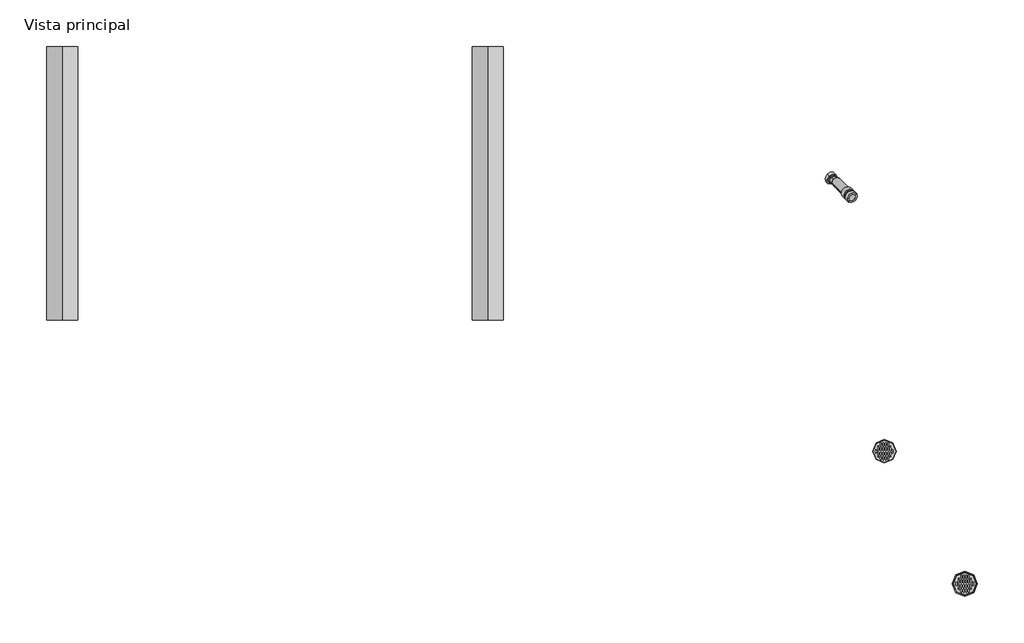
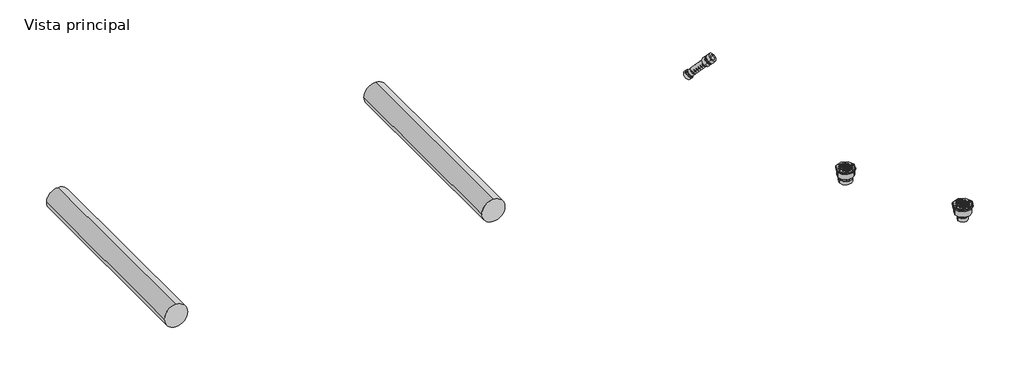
# One storey, incomplete: 3 pipe fittings, 2 pipe segments, 1 valve.
"""IFC4 building model written with IfcOpenShell, lengths in millimetres."""

from ifc_helpers import new_model, si_unit, point, frame, frame_2d, origin, place, context, project, spatial, circle_curve, trimmed, segment, composite_curve, outline, extrude, transform, mapped, element, save
from components import pipe_fitting_ac765421, pipe_fitting_10ac5c91, pipe_fitting_6519f7ac, pipe_fitting_52427b94, var_de22d4bc, var_55d9fc44

model = new_model("IFC4")

# Units and contexts
model_context = context("Model", 3, world=origin())
ifc_project = project(units=[si_unit("LENGTHUNIT", "METRE", prefix="MILLI")], contexts=[model_context])

# Site, building, storey
site = spatial("IfcSite", under=ifc_project)
building = spatial("IfcBuilding", under=site)
storey = spatial("IfcBuildingStorey", under=building, Name="Vista principal", Elevation=0.0)

# Pipe fittings
placement = place(None, origin())
pipe_fitting_shape = pipe_fitting_ac765421(model_context)
pipe_fitting_2_shape = pipe_fitting_10ac5c91(model_context)
element("IfcPipeFitting", 1, ObjectType="AmancoWavin_Unionesdetubería_SanitarioPVCColaderaInstaRex : Cementar 110 mm", at=placement, inside=storey, context=model_context, shape_type="MappedRepresentation", body=[
    mapped(pipe_fitting_shape, transform((3274.9290376, -51.1431871, 0.0), x_axis=(1.0, 0.0, 0.0), y_axis=(0.0, 1.0, 0.0), z_axis=(0.0, 0.0, 1.0))),
    mapped(pipe_fitting_2_shape, transform((3274.9290376, -51.1431871, 0.0), x_axis=(1.0, 0.0, 0.0), y_axis=(0.0, 1.0, 0.0), z_axis=(0.0, 0.0, 1.0))),
])
pipe_fitting_3_shape = pipe_fitting_6519f7ac(model_context)
pipe_fitting_4_shape = pipe_fitting_52427b94(model_context)
element("IfcPipeFitting", 2, ObjectType="AmancoWavin_Unionesdetubería_SanitarioPVCColaderaSanitariaCementar : Cementar 110 mm", at=placement, inside=storey, context=model_context, shape_type="MappedRepresentation", body=[
    mapped(pipe_fitting_3_shape, transform((3686.7991744, -729.2130018, 0.0), x_axis=(1.0, 0.0, 0.0), y_axis=(0.0, 1.0, 0.0), z_axis=(0.0, 0.0, 1.0))),
    mapped(pipe_fitting_4_shape, transform((3686.7991744, -729.2130018, 0.0), x_axis=(1.0, 0.0, 0.0), y_axis=(0.0, 1.0, 0.0), z_axis=(0.0, 0.0, 1.0))),
])
var_shape = var_de22d4bc(model_context)
element("IfcPipeFitting", 3, ObjectType="AmancoWavin_Unionesdetubería_HepVoPPZNoUsarValvulaautosellantePP : var.", at=placement, inside=storey, context=model_context, shape_type="MappedRepresentation", body=[
    mapped(var_shape, transform((3026.9314993, 1331.7357566, -41.0121933), x_axis=(0.500000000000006, -0.4999999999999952, 0.7071067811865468), y_axis=(0.7071067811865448, 0.7071067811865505, 0.0), z_axis=(-0.4999999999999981, 0.5000000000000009, 0.7071067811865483))),
])

# Pipe segments
element("IfcPipeSegment", 4, ObjectType="AmancoWavin_Tuberías_SanitarioPVCdenorma 40 - 160 mm (6 mts)", at=placement, inside=storey, context=model_context, shape_type="SweptSolid", body=[
    extrude(outline(composite_curve([segment(trimmed(circle_curve(frame_2d((0.0, -933.2105048)), 80.05), [point((0.0, -1013.2605048))], [point((-80.05, -933.2105048))], False, "CARTESIAN"), True, "CONTINUOUS"), segment(trimmed(circle_curve(frame_2d((0.0, -933.2105048)), 80.05), [point((-80.05, -933.2105048))], [point((0.0, -853.1605048))], False, "CARTESIAN"), True, "CONTINUOUS"), segment(trimmed(circle_curve(frame_2d((0.0, -933.2105048)), 80.05), [point((0.0, -853.1605048))], [point((80.05, -933.2105048))], False, "CARTESIAN"), True, "CONTINUOUS"), segment(trimmed(circle_curve(frame_2d((0.0, -933.2105048)), 80.05), [point((80.05, -933.2105048))], [point((0.0, -1013.2605048))], False, "CARTESIAN"), True, "CONTINUOUS")], self_intersect=False)), frame((0.0, 622.3647542, 0.0), z_axis=(0.0, 1.0, 0.0), x_axis=(0.0, 0.0, 1.0)), (0.0, 0.0, 1.0), 1400.0),
])
element("IfcPipeSegment", 5, ObjectType="AmancoWavin_Tuberías_SanitarioPVCdenormaRexolit 40 - 160 mm (6 mts)", at=placement, inside=storey, context=model_context, shape_type="SweptSolid", body=[
    extrude(outline(composite_curve([segment(trimmed(circle_curve(frame_2d((0.0, 1245.3840328)), 80.05), [point((0.0, 1165.3340328))], [point((-80.05, 1245.3840328))], False, "CARTESIAN"), True, "CONTINUOUS"), segment(trimmed(circle_curve(frame_2d((0.0, 1245.3840328)), 80.05), [point((-80.05, 1245.3840328))], [point((0.0, 1325.4340328))], False, "CARTESIAN"), True, "CONTINUOUS"), segment(trimmed(circle_curve(frame_2d((0.0, 1245.3840328)), 80.05), [point((0.0, 1325.4340328))], [point((80.05, 1245.3840328))], False, "CARTESIAN"), True, "CONTINUOUS"), segment(trimmed(circle_curve(frame_2d((0.0, 1245.3840328)), 80.05), [point((80.05, 1245.3840328))], [point((0.0, 1165.3340328))], False, "CARTESIAN"), True, "CONTINUOUS")], self_intersect=False)), frame((0.0, 622.3647542, 0.0), z_axis=(0.0, 1.0, 0.0), x_axis=(0.0, 0.0, 1.0)), (0.0, 0.0, 1.0), 1400.0),
])

# Valve
var_2_shape = var_55d9fc44(model_context)
element("IfcValve", 6, ObjectType="AmancoWavin_Unionesdetubería_HepVoPPZNoUsarAdaptadorDeslizantePP : var.", at=placement, inside=storey, context=model_context, shape_type="MappedRepresentation", body=[
    mapped(var_2_shape, transform((3089.4314993, 1269.2357566, 47.3761543), x_axis=(0.500000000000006, -0.4999999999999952, 0.7071067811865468), y_axis=(0.7071067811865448, 0.7071067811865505, 0.0), z_axis=(-0.4999999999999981, 0.5000000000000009, 0.7071067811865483))),
])

save(model, "model.ifc")
